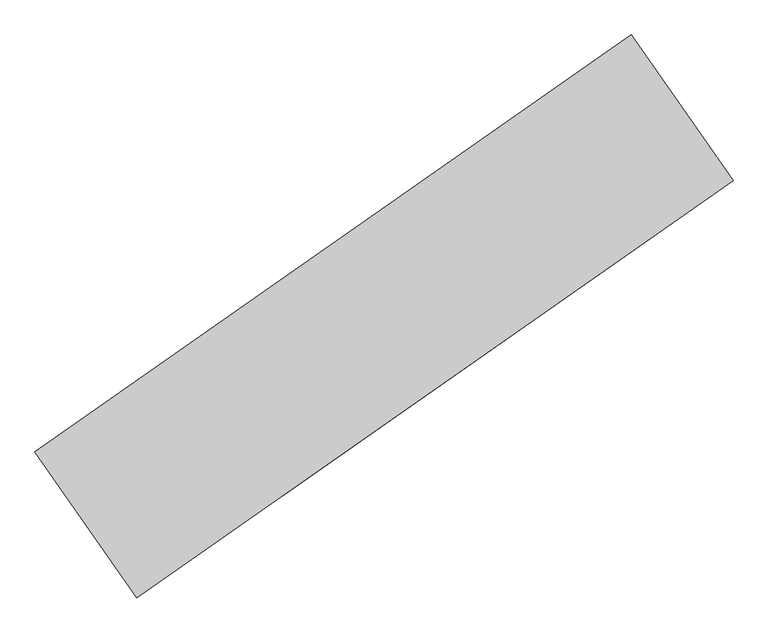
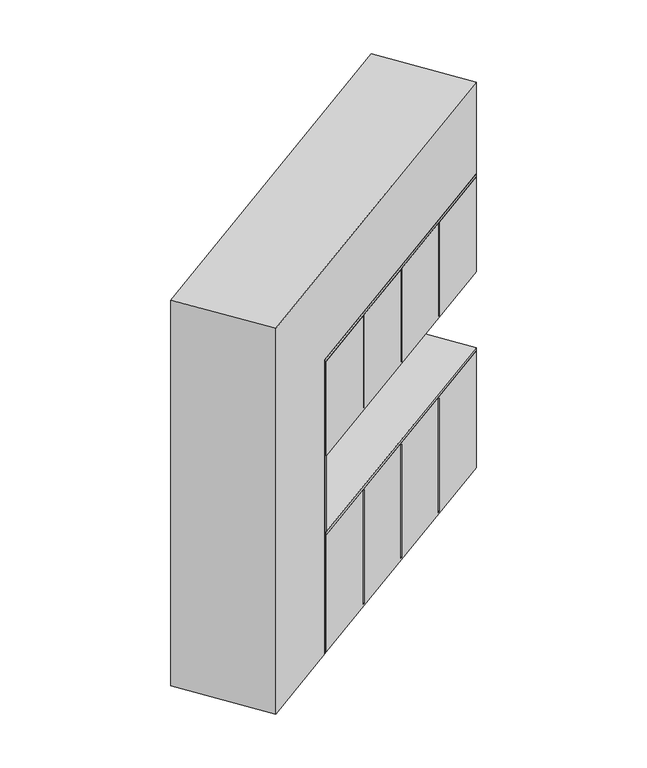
"""IFC4 building model written with IfcOpenShell, lengths in millimetres: furniture geometry, Kitchen Redesign : Kitchen Redesign."""

from ifc_helpers import new_model, si_unit, frame, origin, place, context, project, spatial, polyline, outline, extrude, faceted_brep, source, transform, mapped, element, save


def furniture_4803af8d(model_context):
    return source(origin(), model_context, "Body", "SolidModel", [
        extrude(outline(polyline([(-1429.0123729, 14651.1155088), (-3309.0375676, 13334.7076954), (-3341.1986622, 13380.6384986), (-1461.1734675, 14697.046312), (-1429.0123729, 14651.1155088)])), frame((0.0, 0.0, 1675.0), z_axis=(0.0, 0.0, 1.0), x_axis=(1.0, 0.0, 0.0)), (0.0, 0.0, 1.0), 25.0),
        extrude(outline(polyline([(-2911.016335, 12766.2744654), (-3341.1986622, 13380.6384986), (-1461.1734675, 14697.046312), (-1030.9911403, 14082.6822788), (-2911.016335, 12766.2744654)])), frame((0.0, 0.0, 1075.0), z_axis=(0.0, 0.0, 1.0), x_axis=(1.0, 0.0, 0.0)), (0.0, 0.0, 1.0), 25.0),
        faceted_brep([(-3341.1986622, 13380.6384986, 1075.0), (-2911.016335, 12766.2744654, 1075.0), (-1030.9911403, 14082.6822788, 1075.0), (-1461.1734675, 14697.046312, 1075.0), (-3341.1986622, 13380.6384986, 150.0), (-1461.1734675, 14697.046312, 150.0), (-1030.9911403, 14082.6822788, 150.0), (-2911.016335, 12766.2744654, 150.0), (-2447.1305323, 13091.0908013, 165.372951), (-2447.1305323, 13091.0908013, 1064.3271184), (-2434.8432516, 13099.6944479, 1064.3271184), (-2434.8432516, 13099.6944479, 165.372951), (-1977.1010893, 13420.2089605, 166.1608427), (-1977.1010893, 13420.2089605, 1060.5119366), (-1964.8138086, 13428.8126071, 1060.5119366), (-1964.8138086, 13428.8126071, 166.1608427), (-1507.0716463, 13749.3271197, 164.0417124), (-1507.0716463, 13749.3271197, 1058.465697), (-1494.7843656, 13757.9307662, 1058.465697), (-1494.7843656, 13757.9307662, 164.0417124), (-2463.6069984, 13114.6216335, 165.372951), (-2451.3197177, 13123.2252801, 165.372951), (-2451.3197177, 13123.2252801, 1064.3271184), (-2463.6069984, 13114.6216335, 1064.3271184), (-1993.5775554, 13443.7397927, 166.1608427), (-1981.2902747, 13452.3434392, 166.1608427), (-1981.2902747, 13452.3434392, 1060.5119366), (-1993.5775554, 13443.7397927, 1060.5119366), (-1523.5481124, 13772.8579519, 164.0417124), (-1511.2608317, 13781.4615984, 164.0417124), (-1511.2608317, 13781.4615984, 1058.465697), (-1523.5481124, 13772.8579519, 1058.465697)], [[[0, 1, 2, 3]], [[4, 5, 6, 7]], [[1, 0, 4, 7]], [[2, 1, 7, 6], [8, 9, 10, 11], [12, 13, 14, 15], [16, 17, 18, 19]], [[3, 2, 6, 5]], [[0, 3, 5, 4]], [[20, 21, 22, 23]], [[24, 25, 26, 27]], [[28, 29, 30, 31]], [[20, 23, 9, 8]], [[22, 21, 11, 10]], [[24, 27, 13, 12]], [[26, 25, 15, 14]], [[28, 31, 17, 16]], [[30, 29, 19, 18]], [[23, 22, 10, 9]], [[21, 20, 8, 11]], [[27, 26, 14, 13]], [[25, 24, 12, 15]], [[31, 30, 18, 17]], [[29, 28, 16, 19]]]),
        faceted_brep([(-1461.1734675, 14697.046312, 1700.0), (-1461.1734675, 14697.046312, 2450.0), (-1030.9911403, 14082.6822788, 2450.0), (-1030.9911403, 14082.6822788, 1700.0), (-3341.1986622, 13380.6384986, 1700.0), (-2911.016335, 12766.2744654, 1700.0), (-2911.016335, 12766.2744654, 2450.0), (-3341.1986622, 13380.6384986, 2450.0), (-2447.1305323, 13091.0908013, 2450.0), (-2497.5028644, 13163.0299469, 2450.0), (-2485.2155837, 13171.6335935, 2450.0), (-2434.8432516, 13099.6944479, 2450.0), (-1977.1010893, 13420.2089605, 2450.0), (-2027.4734213, 13492.1481061, 2450.0), (-2015.1861407, 13500.7517527, 2450.0), (-1964.8138086, 13428.8126071, 2450.0), (-1507.0716463, 13749.3271197, 2450.0), (-1557.4439783, 13821.2662653, 2450.0), (-1545.1566977, 13829.8699119, 2450.0), (-1494.7843656, 13757.9307662, 2450.0), (-1494.7843656, 13757.9307662, 1711.4080736), (-1507.0716463, 13749.3271197, 1711.4080736), (-1964.8138086, 13428.8126071, 1711.4080736), (-1977.1010893, 13420.2089605, 1711.4080736), (-2434.8432516, 13099.6944479, 1711.4080736), (-2447.1305323, 13091.0908013, 1711.4080736), (-2497.5028644, 13163.0299469, 1711.4080736), (-2485.2155837, 13171.6335935, 1711.4080736), (-2027.4734213, 13492.1481061, 1711.4080736), (-2015.1861407, 13500.7517527, 1711.4080736), (-1557.4439783, 13821.2662653, 1711.4080736), (-1545.1566977, 13829.8699119, 1711.4080736)], [[[0, 1, 2, 3]], [[4, 5, 6, 7]], [[1, 0, 4, 7]], [[2, 1, 7, 6, 8, 9, 10, 11, 12, 13, 14, 15, 16, 17, 18, 19]], [[3, 2, 19, 20, 21, 16, 15, 22, 23, 12, 11, 24, 25, 8, 6, 5]], [[0, 3, 5, 4]], [[26, 27, 10, 9]], [[28, 29, 14, 13]], [[30, 31, 18, 17]], [[26, 9, 8, 25]], [[10, 27, 24, 11]], [[28, 13, 12, 23]], [[14, 29, 22, 15]], [[30, 17, 16, 21]], [[18, 31, 20, 19]], [[27, 26, 25, 24]], [[29, 28, 23, 22]], [[31, 30, 21, 20]]]),
        faceted_brep([(-2911.016335, 12766.2744654, 150.0), (-2911.016335, 12766.2744654, 2450.0), (-2447.1305323, 13091.0908013, 2450.0), (-2434.8432516, 13099.6944479, 2450.0), (-1977.1010893, 13420.2089605, 2450.0), (-1964.8138086, 13428.8126071, 2450.0), (-1507.0716463, 13749.3271197, 2450.0), (-1494.7843656, 13757.9307662, 2450.0), (-1030.9911403, 14082.6822788, 2450.0), (-1030.9911403, 14082.6822788, 2475.0), (-2931.4951361, 12751.9350545, 2475.0), (-2931.4951361, 12751.9350545, 150.0), (-3341.1986622, 13380.6384986, 150.0), (-3361.6774634, 13366.2990877, 150.0), (-3361.6774634, 13366.2990877, 2475.0), (-1461.1734675, 14697.046312, 2475.0), (-1461.1734675, 14697.046312, 2450.0), (-3341.1986622, 13380.6384986, 2450.0)], [[[0, 1, 2, 3, 4, 5, 6, 7, 8, 9, 10, 11]], [[12, 13, 14, 15, 16, 17]], [[1, 0, 12, 17]], [[17, 16, 8, 7, 6, 5, 4, 3, 2, 1]], [[9, 8, 16, 15]], [[10, 9, 15, 14]], [[11, 10, 14, 13]], [[0, 11, 13, 12]]]),
        extrude(outline(polyline([(0.0, -3070.0869839), (0.0, 0.0), (3050.0, 0.0), (3050.0, -749.9999999), (725.0, -749.9999999), (725.0, -3070.0869839), (0.0, -3070.0869839)])), frame((-3545.8591693, 12321.7527273, 3200.0), z_axis=(-0.5735764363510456, 0.8191520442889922, 0.0), x_axis=(0.0, 0.0, -1.0)), (0.0, 0.0, 1.0), 750.0),
    ])


if __name__ == "__main__":
    model = new_model("IFC4")
    model_context = context("Model", 3, world=origin())
    ifc_project = project(units=[si_unit("LENGTHUNIT", "METRE", prefix="MILLI")], contexts=[model_context])
    site = spatial("IfcSite", under=ifc_project)
    building = spatial("IfcBuilding", under=site)
    placement = place(None, origin())
    furniture_shape = furniture_4803af8d(model_context)
    element("IfcFurniture", 1, ObjectType="Kitchen Redesign : Kitchen Redesign", at=placement, inside=building, context=model_context, shape_type="MappedRepresentation", body=[
        mapped(furniture_shape, transform((0.0, 0.0, 0.0), x_axis=(1.0, 0.0, 0.0), y_axis=(0.0, 1.0, 0.0), z_axis=(0.0, 0.0, 1.0))),
    ])
    save(model, "model.ifc")
